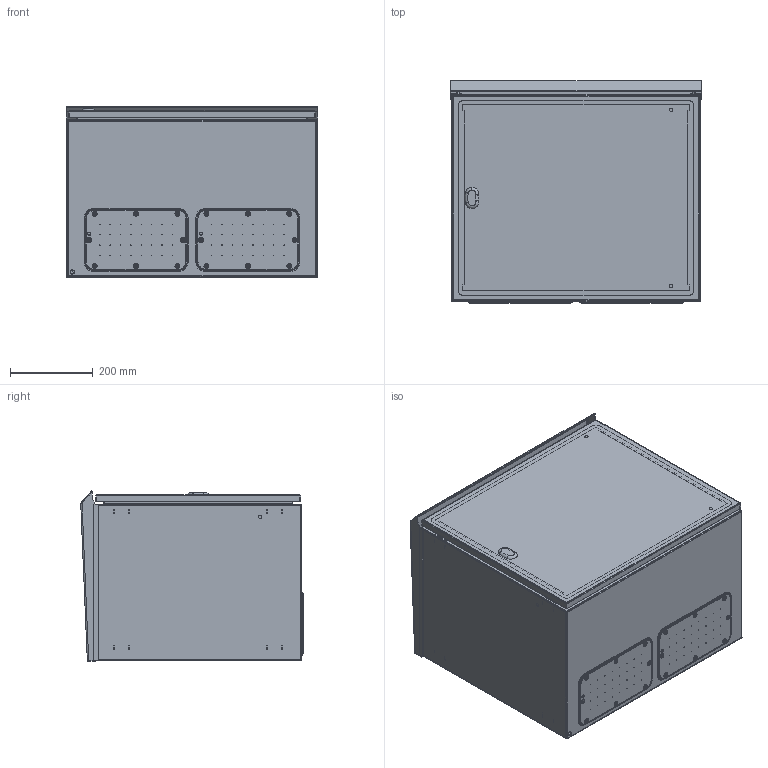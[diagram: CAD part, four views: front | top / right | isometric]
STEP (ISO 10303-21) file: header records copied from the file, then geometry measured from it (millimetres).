
FILE_DESCRIPTION (( 'STEP AP203' ), '1' );
FILE_NAME ('APRO06540BOC.STEP', '2022-01-05T13:59:08', ( '' ), ( '' ), 'SwSTEP 2.0', 'SolidWorks 2021', '' );
FILE_SCHEMA (( 'CONFIG_CONTROL_DESIGN' ));
Length unit declared in the file: millimetre
Products named in the file (9): AR_ECOR_chiusura_std_STD; APRO06540BOC; AR_ECOR_flangia IC_03; AR_ECOR_montaggio_porta_singola_0600x0500; AR_ECOR_Tettuccio_19; AR_BOX ABACUS PRO_involucro_0600x0500x0400; 03008080701_03; 03008060001_06; AR_ECOR_porta_singola_0600x0500
Assembly tree (13 placements, depth 3):
  APRO06540BOC
    AR_BOX ABACUS PRO_involucro_0600x0500x0400
    AR_ECOR_montaggio_porta_singola_0600x0500
      AR_ECOR_porta_singola_0600x0500
      AR_ECOR_chiusura_std_STD
    AR_ECOR_flangia IC_03  x2
    03008060001_06  x4
    03008080701_03  x2
    AR_ECOR_Tettuccio_19
Bounding box: 607 x 537.3 x 411.42 mm (x, y, z)
Volume: 3113949.1 mm3; surface area: 4199140 mm2
Topology: 12 solids, 12 shells, 3377 faces, 9104 edges, 5612 vertices
Faces by surface type: plane 2091, cylinder 1017, cone 108, torus 73, bspline 72, sphere 16
Entity records: 51035 total; most frequent: CARTESIAN_POINT 9989, DIRECTION 8293, ORIENTED_EDGE 8288, EDGE_CURVE 4144, LINE 2843, VECTOR 2843, AXIS2_PLACEMENT_3D 2725, VERTEX_POINT 2602
